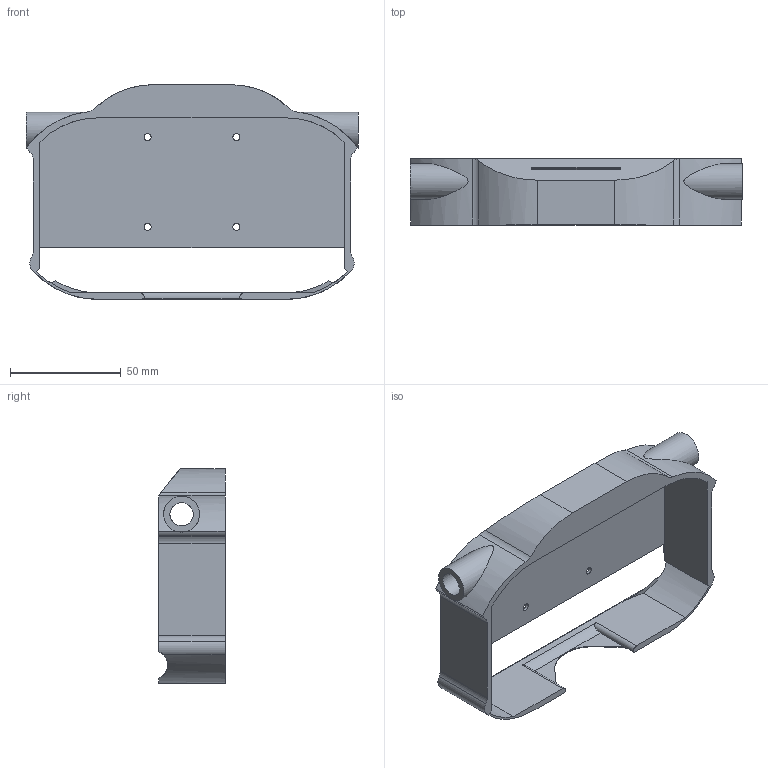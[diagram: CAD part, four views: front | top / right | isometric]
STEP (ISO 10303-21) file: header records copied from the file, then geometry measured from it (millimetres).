
FILE_DESCRIPTION(/* description */ ('STEP AP242 Edition 2','CAx-IF Rec.Pracs.---Representation and Presentation of Product Manufacturing Information (PMI)---4.0---2014-10-13','CAx-IF Rec.Pracs.---3D Tessellated Geometry---0.4---2014-09-14','2;1','CAx-IF Rec.Pracs.---User Defined Attributes---1.5---2016-08-15'),/* implementation_level */ '2;1');
FILE_NAME(/* name */ 'main - Part 47 - shell-',/* time_stamp */ '2026-11-08T20:03:45Z',/* author */ (''),/* organization */ (''),/* preprocessor_version */ 'ST-DEVELOPER v20',/* originating_system */ 'ONSHAPE BY PTC INC, 1.223',/* authorisation */ ' ');
FILE_SCHEMA (('AP242_MANAGED_MODEL_BASED_3D_ENGINEERING_MIM_LF { 1 0 10303 442 3 1 4 }'));
Length unit declared in the file: metre
Products named in the file (1): Part 47 - shell?
Bounding box: 150 x 30 x 97 mm (x, y, z)
Volume: 70414.9 mm3; surface area: 45110 mm2
Topology: 1 solids, 1 shells, 125 faces, 359 edges, 239 vertices
Faces by surface type: plane 64, cylinder 51, bspline 8, torus 2
Full cylindrical faces by diameter (mm): 1.774 x4, 3.2 x4, 10.6 x2
Entity records: 4484 total; most frequent: CARTESIAN_POINT 1186, ORIENTED_EDGE 678, DIRECTION 631, EDGE_CURVE 339, VERTEX_POINT 229, AXIS2_PLACEMENT_3D 219, LINE 193, VECTOR 193
